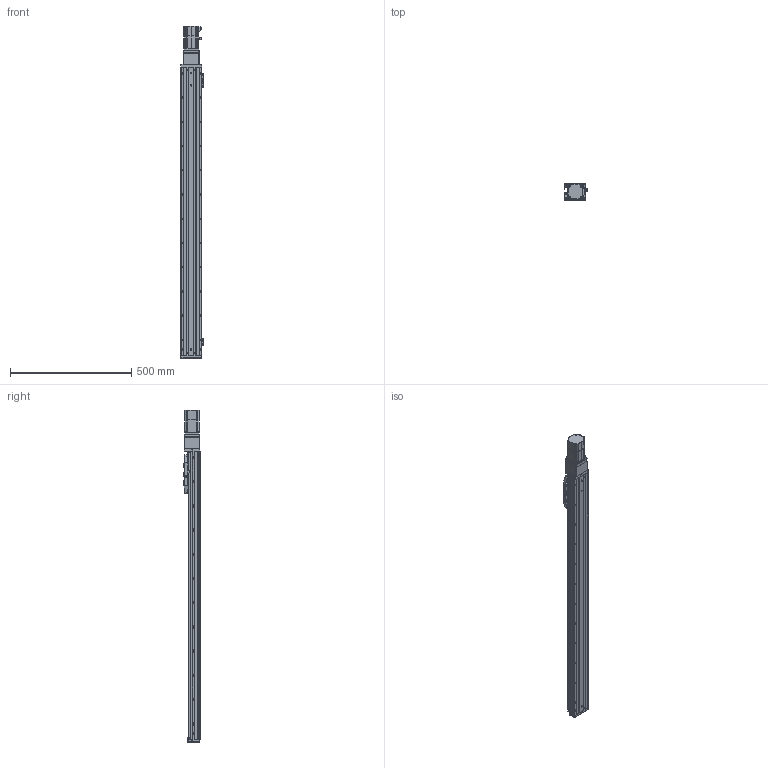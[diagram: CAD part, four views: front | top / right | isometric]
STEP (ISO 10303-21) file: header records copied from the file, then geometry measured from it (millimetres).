
FILE_DESCRIPTION (( 'STEP AP203' ), '1' );
FILE_NAME ('CTHA86-1000-BC-M20-C4L.step', '2022-04-26T00:45:33', ( '微软用户' ), ( '微软中国' ), 'SwSTEP 2.0', 'SolidWorks 2020', '' );
FILE_SCHEMA (( 'CONFIG_CONTROL_DESIGN' ));
Length unit declared in the file: millimetre
Products named in the file (22): CTHA60-017; CTHA60-016; CTHA86-031; CTHA60-021; CTHA86-013; CTHA86-030; KTHA86-001_1190; GBT77-2000 M3×3; CTHA86-027; CTHA86-1000-BC-M20-C4L; KTHA86-004; GBT 70.1-M3×20; CTHA86-006-1_CTHA86-006-2; KTHA86-005; GBT70.1 M5℅16; _X2_4E0983F1_X0_200W_1; GB¨uT 70.2-M3¡Á5_M3¡Á6; GBT 70.1-M3×16; GBT 70.3-M3℅6; EE_SX911P_R; GBT 70.1-M3℅6; CTHA86-002
Assembly tree (65 placements, depth 2):
  CTHA86-1000-BC-M20-C4L
    KTHA86-001_1190
    KTHA86-004
    KTHA86-005
    GB¨uT 70.2-M3¡Á5_M3¡Á6  x10
    EE_SX911P_R  x3
    CTHA60-017  x3
    CTHA60-021  x2
    GBT77-2000 M3×3  x6
    GBT 70.1-M3×20
    GBT70.1 M5℅16  x14
    GBT 70.1-M3×16
    GBT 70.1-M3℅6  x6
    CTHA60-016  x2
    CTHA86-013
    CTHA86-027
    CTHA86-006-1_CTHA86-006-2
    _X2_4E0983F1_X0_200W_1
    GBT 70.3-M3℅6  x6
    CTHA86-002
    CTHA86-031
    CTHA86-030  x2
Bounding box: 93.82 x 68 x 1370.5 mm (x, y, z)
Volume: 4481605.6 mm3; surface area: 775839.1 mm2
Topology: 67 solids, 67 shells, 2814 faces, 6751 edges, 4156 vertices
Faces by surface type: plane 1476, cylinder 727, cone 398, torus 120, bspline 69, sphere 24
Entity records: 50859 total; most frequent: CARTESIAN_POINT 9408, DIRECTION 8038, ORIENTED_EDGE 7758, EDGE_CURVE 3879, AXIS2_PLACEMENT_3D 2722, VECTOR 2594, LINE 2594, VERTEX_POINT 2434
